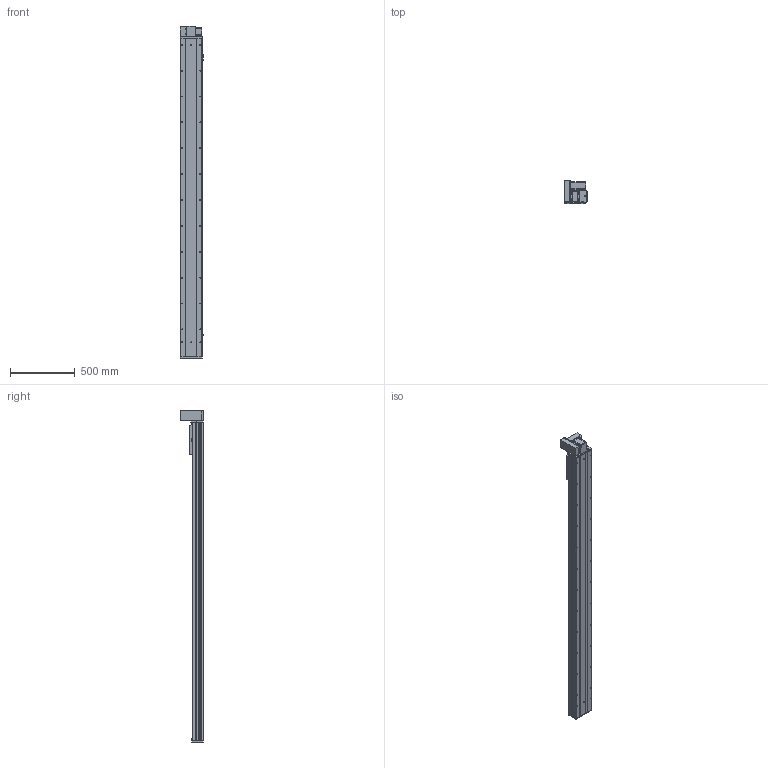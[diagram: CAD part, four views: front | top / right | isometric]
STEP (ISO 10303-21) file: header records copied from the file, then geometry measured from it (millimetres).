
FILE_DESCRIPTION (( 'STEP AP203' ), '1' );
FILE_NAME ('Y170CB-D105-S2150-UL-P400W.STEP', '2020-02-20T02:54:34', ( '微软用户' ), ( '微软中国' ), 'SwSTEP 2.0', 'SolidWorks 2017', '' );
FILE_SCHEMA (( 'CONFIG_CONTROL_DESIGN' ));
Length unit declared in the file: millimetre
Products named in the file (18): 70C-雄赽釱-奻-; B-源倛裔啣; 0C--雄赽釱俋欶-170; 0B-萇儂楊擘啣; Y1埴倛裔; 70CB-詩湍--; san松下电机400不带刹车----; 17B-耜蚾蟀諉啣----; Y100-135俋离換覜ん--; 70CB-掛极-; 00B-俋欶BM--163; Y170CB-陔俋离換覜結え---; --70CB --喘謫眊楊擘啣-; Y170CB-D105-S2150-UL-P400W; 70B喘謫眊----; 70CB-耜裔啣-; 70C--詩湍揤踡え-; 70CB--耜裔
Assembly tree (21 placements, depth 2):
  Y170CB-D105-S2150-UL-P400W
    B-源倛裔啣
    0B-萇儂楊擘啣
    san松下电机400不带刹车----
    70CB-掛极-
    --70CB --喘謫眊楊擘啣-
    70CB-耜裔啣-  x2
    70C--詩湍揤踡え-  x2
    70CB--耜裔
    70C-雄赽釱-奻-
    0C--雄赽釱俋欶-170
    70CB-詩湍--
    Y100-135俋离換覜ん--  x3
    Y170CB-陔俋离換覜結え---
    70B喘謫眊----
    Y1埴倛裔
    17B-耜蚾蟀諉啣----
    00B-俋欶BM--163
Bounding box: 183.5 x 174 x 2566 mm (x, y, z)
Volume: 11067179.8 mm3; surface area: 3992552.8 mm2
Topology: 21 solids, 21 shells, 1055 faces, 2837 edges, 1882 vertices
Faces by surface type: cylinder 569, plane 462, cone 24
Entity records: 33788 total; most frequent: CARTESIAN_POINT 6216, DIRECTION 5498, ORIENTED_EDGE 5156, EDGE_CURVE 2578, AXIS2_PLACEMENT_3D 2028, VERTEX_POINT 1712, LINE 1442, VECTOR 1442
